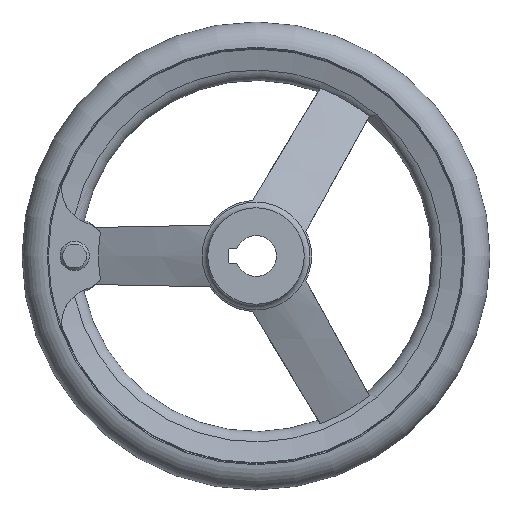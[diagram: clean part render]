
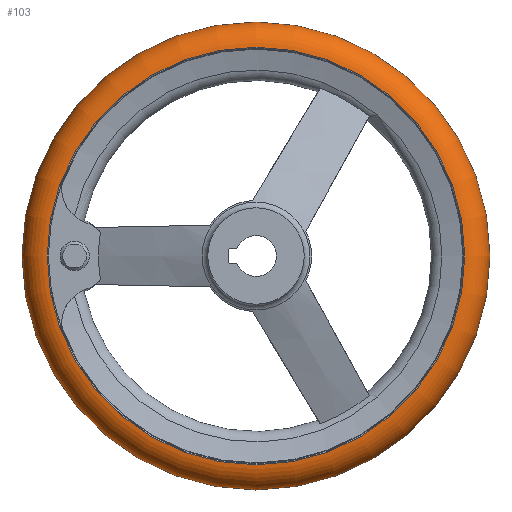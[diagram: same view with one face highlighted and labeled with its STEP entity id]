
A CAD part, left-side view. The second image highlights one B-rep face of the part: STEP entity #103.
In plain terms, the highlighted toroidal (fillet/blend) face has major radius 70.992 mm and minor radius 9.008 mm.
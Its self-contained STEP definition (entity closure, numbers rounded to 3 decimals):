
#103 = ADVANCED_FACE( '', ( #193, #194, #195 ), #196, .T. );
#193 = FACE_BOUND( '', #313, .T. );
#194 = FACE_OUTER_BOUND( '', #314, .T. );
#195 = FACE_OUTER_BOUND( '', #315, .T. );
#196 = TOROIDAL_SURFACE( '', #316, 70.992, 9.008 );
#313 = VERTEX_LOOP( '', #633 );
#314 = EDGE_LOOP( '', ( #634 ) );
#315 = EDGE_LOOP( '', ( #635 ) );
#316 = AXIS2_PLACEMENT_3D( '', #636, #637, #638 );
#633 = VERTEX_POINT( '', #843 );
#634 = ORIENTED_EDGE( '', *, *, #842, .T. );
#635 = ORIENTED_EDGE( '', *, *, #836, .F. );
#636 = CARTESIAN_POINT( '', ( 31., 0., 0. ) );
#637 = DIRECTION( '', ( 1., 0., 0. ) );
#638 = DIRECTION( '', ( 0., 1., 0. ) );
#836 = EDGE_CURVE( '', #1006, #1006, #1007, .T. );
#842 = EDGE_CURVE( '', #1017, #1017, #1018, .T. );
#843 = CARTESIAN_POINT( '', ( 31., 80., 0. ) );
#1006 = VERTEX_POINT( '', #1579 );
#1007 = CIRCLE( '', #1580, 71.375 );
#1017 = VERTEX_POINT( '', #1590 );
#1018 = CIRCLE( '', #1591, 71.375 );
#1579 = CARTESIAN_POINT( '', ( 40., 71.375, 0. ) );
#1580 = AXIS2_PLACEMENT_3D( '', #1740, #1741, #1742 );
#1590 = CARTESIAN_POINT( '', ( 22., 71.375, 0. ) );
#1591 = AXIS2_PLACEMENT_3D( '', #1758, #1759, #1760 );
#1740 = CARTESIAN_POINT( '', ( 40., 0., 0. ) );
#1741 = DIRECTION( '', ( 1., 0., 0. ) );
#1742 = DIRECTION( '', ( 0., 1., 0. ) );
#1758 = CARTESIAN_POINT( '', ( 22., 0., 0. ) );
#1759 = DIRECTION( '', ( 1., 0., 0. ) );
#1760 = DIRECTION( '', ( 0., 1., 0. ) );
